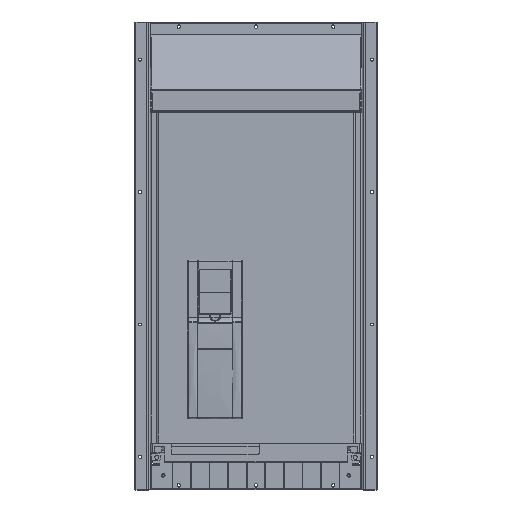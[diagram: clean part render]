
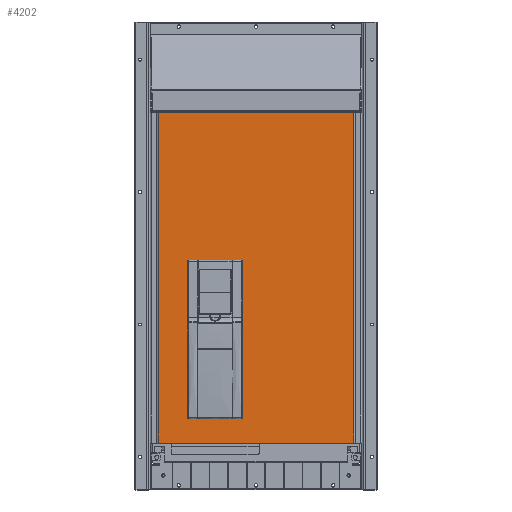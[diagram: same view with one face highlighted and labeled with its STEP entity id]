
A CAD part, top view. The second image highlights one B-rep face of the part: STEP entity #4202.
In plain terms, the highlighted planar face has unit normal (0, 0, 1).
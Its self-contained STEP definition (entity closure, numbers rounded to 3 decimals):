
#1111=ELLIPSE('',#60730,1.001,1.);
#1112=ELLIPSE('',#60731,1.001,1.);
#1113=ELLIPSE('',#60732,1.001,1.);
#1114=ELLIPSE('',#60733,1.001,1.);
#2033=FACE_BOUND('',#12951,.T.);
#2034=FACE_BOUND('',#12952,.T.);
#4202=ADVANCED_FACE('',(#2033,#2034),#6819,.T.);
#6819=PLANE('',#60734);
#12951=EDGE_LOOP('',(#37293,#37294,#37295,#37296,#37297,#37298,#37299,#37300));
#12952=EDGE_LOOP('',(#37301,#37302,#37303,#37304));
#18368=LINE('',#90678,#24780);
#18369=LINE('',#90687,#24781);
#18370=LINE('',#90691,#24782);
#18371=LINE('',#90695,#24783);
#18372=LINE('',#90699,#24784);
#18373=LINE('',#90700,#24785);
#18374=LINE('',#90703,#24786);
#18375=LINE('',#90704,#24787);
#24780=VECTOR('',#71527,1.);
#24781=VECTOR('',#71536,1.);
#24782=VECTOR('',#71539,1.);
#24783=VECTOR('',#71542,1.);
#24784=VECTOR('',#71545,1.);
#24785=VECTOR('',#71546,1.);
#24786=VECTOR('',#71547,1.);
#24787=VECTOR('',#71548,1.);
#37293=ORIENTED_EDGE('',*,*,#53889,.F.);
#37294=ORIENTED_EDGE('',*,*,#53890,.F.);
#37295=ORIENTED_EDGE('',*,*,#53891,.F.);
#37296=ORIENTED_EDGE('',*,*,#53892,.F.);
#37297=ORIENTED_EDGE('',*,*,#53893,.F.);
#37298=ORIENTED_EDGE('',*,*,#53894,.F.);
#37299=ORIENTED_EDGE('',*,*,#53895,.F.);
#37300=ORIENTED_EDGE('',*,*,#53896,.F.);
#37301=ORIENTED_EDGE('',*,*,#53897,.F.);
#37302=ORIENTED_EDGE('',*,*,#53898,.T.);
#37303=ORIENTED_EDGE('',*,*,#53886,.T.);
#37304=ORIENTED_EDGE('',*,*,#53899,.T.);
#46814=VERTEX_POINT('',#90679);
#46815=VERTEX_POINT('',#90680);
#46816=VERTEX_POINT('',#90685);
#46817=VERTEX_POINT('',#90686);
#46818=VERTEX_POINT('',#90688);
#46819=VERTEX_POINT('',#90690);
#46820=VERTEX_POINT('',#90692);
#46821=VERTEX_POINT('',#90694);
#46822=VERTEX_POINT('',#90696);
#46823=VERTEX_POINT('',#90698);
#46824=VERTEX_POINT('',#90701);
#46825=VERTEX_POINT('',#90702);
#53886=EDGE_CURVE('',#46814,#46815,#18368,.T.);
#53889=EDGE_CURVE('',#46816,#46817,#1111,.T.);
#53890=EDGE_CURVE('',#46818,#46816,#18369,.T.);
#53891=EDGE_CURVE('',#46819,#46818,#1112,.T.);
#53892=EDGE_CURVE('',#46820,#46819,#18370,.T.);
#53893=EDGE_CURVE('',#46821,#46820,#1113,.T.);
#53894=EDGE_CURVE('',#46822,#46821,#18371,.T.);
#53895=EDGE_CURVE('',#46823,#46822,#1114,.T.);
#53896=EDGE_CURVE('',#46817,#46823,#18372,.T.);
#53897=EDGE_CURVE('',#46824,#46825,#18373,.T.);
#53898=EDGE_CURVE('',#46824,#46814,#18374,.T.);
#53899=EDGE_CURVE('',#46815,#46825,#18375,.T.);
#60730=AXIS2_PLACEMENT_3D('',#90684,#71534,#71535);
#60731=AXIS2_PLACEMENT_3D('',#90689,#71537,#71538);
#60732=AXIS2_PLACEMENT_3D('',#90693,#71540,#71541);
#60733=AXIS2_PLACEMENT_3D('',#90697,#71543,#71544);
#60734=AXIS2_PLACEMENT_3D('',#90705,#71549,#71550);
#71527=DIRECTION('',(0.,-1.,0.));
#71534=DIRECTION('',(0.,0.,1.));
#71535=DIRECTION('',(-0.707,-0.707,0.));
#71536=DIRECTION('',(0.,-1.,0.));
#71537=DIRECTION('',(0.,0.,1.));
#71538=DIRECTION('',(-0.707,0.707,0.));
#71539=DIRECTION('',(-1.,0.,0.));
#71540=DIRECTION('',(0.,0.,1.));
#71541=DIRECTION('',(0.707,0.707,0.));
#71542=DIRECTION('',(0.,1.,0.));
#71543=DIRECTION('',(0.,0.,1.));
#71544=DIRECTION('',(0.707,-0.707,0.));
#71545=DIRECTION('',(1.,0.,0.));
#71546=DIRECTION('',(0.,-1.,0.));
#71547=DIRECTION('',(-1.,0.,0.));
#71548=DIRECTION('',(1.,0.,0.));
#71549=DIRECTION('',(0.,0.,1.));
#71550=DIRECTION('',(1.,0.,0.));
#90678=CARTESIAN_POINT('',(-369.,49.5,387.));
#90679=CARTESIAN_POINT('',(-369.,424.25,387.));
#90680=CARTESIAN_POINT('',(-369.,-325.25,387.));
#90684=CARTESIAN_POINT('',(-300.335,-269.668,387.));
#90685=CARTESIAN_POINT('',(-301.335,-269.67,387.));
#90686=CARTESIAN_POINT('',(-300.336,-270.669,387.));
#90687=CARTESIAN_POINT('',(-301.335,465.75,387.));
#90688=CARTESIAN_POINT('',(-301.335,87.99,387.));
#90689=CARTESIAN_POINT('',(-300.335,87.988,387.));
#90690=CARTESIAN_POINT('',(-300.336,88.989,387.));
#90691=CARTESIAN_POINT('',(75.,88.989,387.));
#90692=CARTESIAN_POINT('',(-178.677,88.989,387.));
#90693=CARTESIAN_POINT('',(-178.678,87.988,387.));
#90694=CARTESIAN_POINT('',(-177.677,87.99,387.));
#90695=CARTESIAN_POINT('',(-177.677,465.75,387.));
#90696=CARTESIAN_POINT('',(-177.677,-269.67,387.));
#90697=CARTESIAN_POINT('',(-178.678,-269.668,387.));
#90698=CARTESIAN_POINT('',(-178.677,-270.669,387.));
#90699=CARTESIAN_POINT('',(75.,-270.669,387.));
#90700=CARTESIAN_POINT('',(75.,49.5,387.));
#90701=CARTESIAN_POINT('',(75.,424.25,387.));
#90702=CARTESIAN_POINT('',(75.,-325.25,387.));
#90703=CARTESIAN_POINT('',(-147.,424.25,387.));
#90704=CARTESIAN_POINT('',(-147.,-325.25,387.));
#90705=CARTESIAN_POINT('',(75.,465.75,387.));
